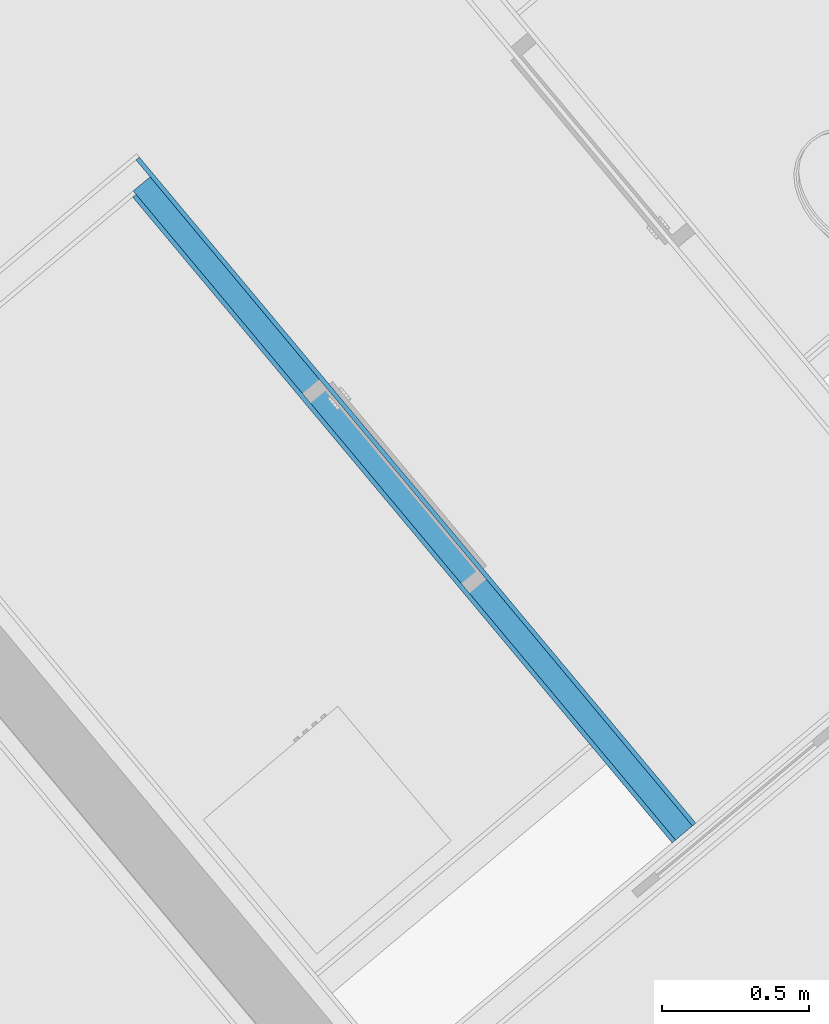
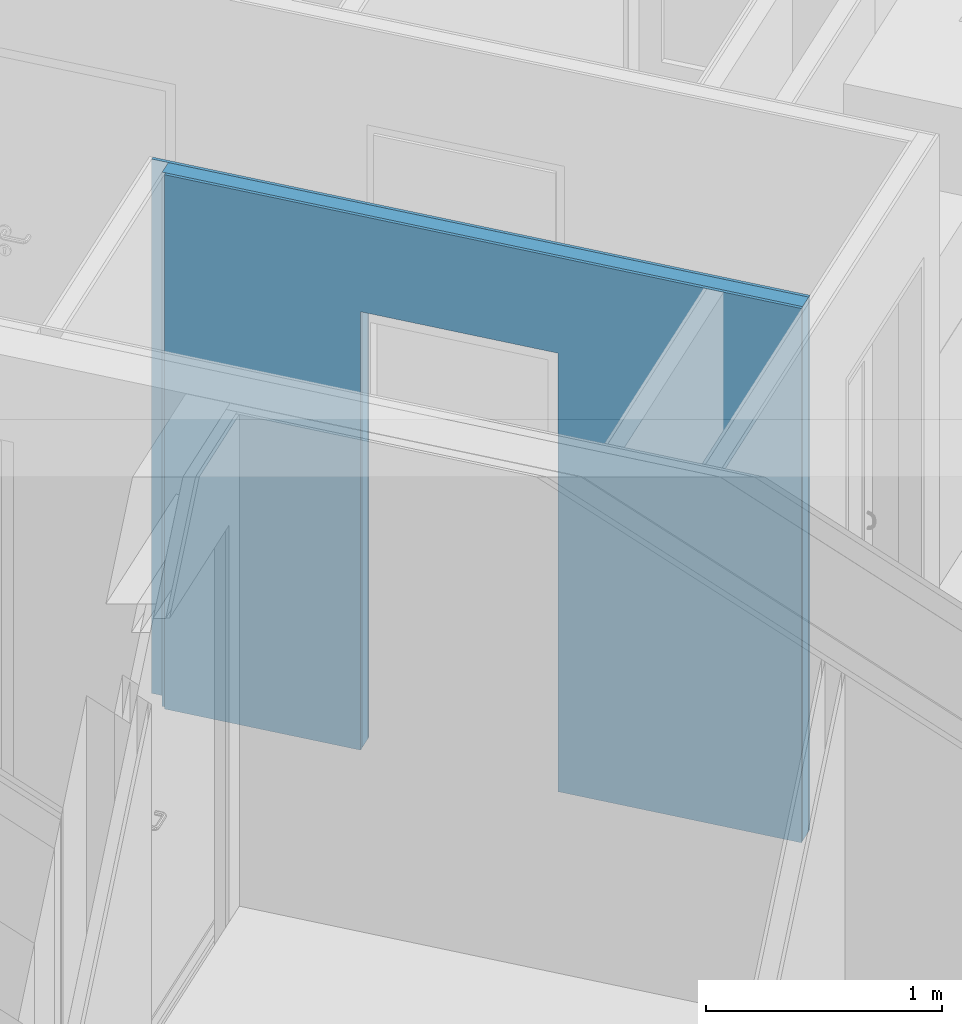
# One storey, part 6 of 61: 3 building element parts, 1 opening, 1 element without a shape of its own.
"""IFC4 building model written with IfcOpenShell, lengths in metres."""

from ifc_helpers import new_model, entity, si_unit, converted_unit, derived_unit, direction, frame, origin_with_axes, place, context, subcontext, project, spatial, polygons, material, type_object, element, aggregate, save


model = new_model("IFC4")

# Units and contexts
model_context = context("Model", 3, precision=1e-05, world=origin_with_axes(), true_north=direction((0.0, 1.0)))
body_context = subcontext(model_context, "Body", "Model", "MODEL_VIEW")
ifc_project = project(units=[si_unit("LENGTHUNIT", "METRE"), si_unit("AREAUNIT", "SQUARE_METRE"), si_unit("VOLUMEUNIT", "CUBIC_METRE"), converted_unit("PLANEANGLEUNIT", "DEGREE", entity("IfcPlaneAngleMeasure", 0.0174532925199), si_unit("PLANEANGLEUNIT", "RADIAN"), dimensions=[0, 0, 0, 0, 0, 0, 0]), converted_unit("TIMEUNIT", "Year", entity("IfcTimeMeasure", 31556926.0), si_unit("TIMEUNIT", "SECOND"), dimensions=[0, 0, 1, 0, 0, 0, 0]), si_unit("MASSUNIT", "GRAM", prefix="KILO"), si_unit("THERMODYNAMICTEMPERATUREUNIT", "DEGREE_CELSIUS"), si_unit("LUMINOUSINTENSITYUNIT", "LUMEN"), si_unit("ENERGYUNIT", "JOULE", prefix="MEGA"), derived_unit("THERMALCONDUCTANCEUNIT", [(si_unit("POWERUNIT", "WATT"), 1), (si_unit("LENGTHUNIT", "METRE"), -1), (si_unit("THERMODYNAMICTEMPERATUREUNIT", "KELVIN"), -1)]), derived_unit("SPECIFICHEATCAPACITYUNIT", [(si_unit("ENERGYUNIT", "JOULE"), 1), (si_unit("MASSUNIT", "GRAM", prefix="KILO"), -1), (si_unit("THERMODYNAMICTEMPERATUREUNIT", "KELVIN"), -1)]), derived_unit("MASSDENSITYUNIT", [(si_unit("MASSUNIT", "GRAM", prefix="KILO"), 1), (si_unit("VOLUMEUNIT", "CUBIC_METRE"), -1)])], contexts=[model_context])

# Site, building, storey
site_placement = place(None, frame((-0.00153261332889, -0.00661245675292, 0.0), z_axis=(0.0, 0.0, 1.0), x_axis=(1.0, 0.0, 0.0)))
site = spatial("IfcSite", under=ifc_project, at=site_placement, Name="Gelände", CompositionType="ELEMENT")
building_placement = place(site_placement, origin_with_axes())
building = spatial("IfcBuilding", under=site, at=building_placement, Name="Gebäude", CompositionType="ELEMENT")
storey_placement = place(building_placement, frame((0.0, 0.0, 5.7), z_axis=(0.0, 0.0, 1.0), x_axis=(1.0, 0.0, 0.0)))
storey = spatial("IfcBuildingStorey", under=building, at=storey_placement, Name="DG1", CompositionType="ELEMENT", Elevation=5.7)

# Wall, opening, building element parts
wall_type = type_object("IfcWallType", Name="IW LB 01 Leichtbautrennwand einfach 10,5 cm 105", PredefinedType="NOTDEFINED")
wall_placement = place(storey_placement, frame((3.83651471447, 23.8286993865, 0.0), z_axis=(0.0, 0.0, 1.0), x_axis=(0.641209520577, -0.767365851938, 0.0)))
wall = element("IfcWall", 1, at=wall_placement, inside=storey, type_object=wall_type, Name="Wand-012", PredefinedType="NOTDEFINED")
opening_placement = place(wall_placement, frame((1.32968654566, 0.0, 0.22), z_axis=(0.0, 0.0, 1.0), x_axis=(1.0, 0.0, 0.0)))
element("IfcOpeningElement", 2, at=opening_placement, cuts=wall, Name="Tür-015", context=body_context, identifier="Reference", shape_type="Tessellation", body=[
    polygons([(-0.445, -1.46532995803, 2.045), (-0.445, -1.46532995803, -0.22), (0.445, -1.46532995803, -0.22), (0.445, -1.46532995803, 2.045), (-0.445, 1.57032995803, 2.045), (-0.445, 1.57032995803, -0.22), (0.445, 1.57032995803, -0.22), (0.445, 1.57032995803, 2.045)], [[[1, 2, 3, 4]], [[5, 6, 2, 1]], [[6, 7, 3, 2]], [[7, 8, 4, 3]], [[8, 5, 1, 4]], [[7, 6, 5, 8]]], closed=True),
])
ifc_material_1 = material(Name="Gipskarton")
building_element_part_1_placement = place(wall_placement, origin_with_axes())
building_element_part_1 = element("IfcBuildingElementPart", 3, at=building_element_part_1_placement, material=ifc_material_1, Name="Gipskarton", PredefinedType="NOTDEFINED", context=body_context, shape_type="Tessellation", body=[
    polygons([(0.884686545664, 0.105, 2.265), (0.884686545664, 0.105, 0.22), (0.884686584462, 0.105, 0.0), (-0.0899999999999, 0.105, 0.0), (-0.0899999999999, 0.105, 2.76), (2.87109055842, 0.105, 2.76), (2.87109055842, 0.105, 0.0), (1.77468654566, 0.105, 0.0), (1.77468654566, 0.105, 0.22), (1.77468654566, 0.105, 2.265), (0.884686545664, 0.09, 2.265), (0.884686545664, 0.09, 0.22), (0.884686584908, 0.09, 0.0), (-0.0899999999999, 0.09, 0.0), (-0.0899999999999, 0.09, 2.76), (2.87108113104, 0.09, 2.76), (2.87108113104, 0.09, 0.0), (1.77468654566, 0.09, 0.0), (1.77468654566, 0.09, 0.22), (1.77468654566, 0.09, 2.265)], [[[1, 2, 3, 4, 5, 6, 7, 8, 9, 10]], [[2, 1, 11, 12]], [[2, 12, 13, 3]], [[13, 14, 4, 3]], [[4, 14, 15, 5]], [[6, 5, 15, 16]], [[7, 6, 16, 17]], [[8, 7, 17, 18]], [[19, 9, 8, 18]], [[10, 9, 19, 20]], [[1, 10, 20, 11]], [[20, 19, 18, 17, 16, 15, 14, 13, 12, 11]]], closed=True),
])
ifc_material_2 = material(Name="Mineralwolle weich")
building_element_part_2_placement = place(wall_placement, origin_with_axes())
building_element_part_2 = element("IfcBuildingElementPart", 4, at=building_element_part_2_placement, material=ifc_material_2, Name="Mineralwolle weich", PredefinedType="NOTDEFINED", context=body_context, shape_type="Tessellation", body=[
    polygons([(0.884686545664, 0.09, 2.265), (0.884686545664, 0.09, 0.22), (0.884686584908, 0.09, 0.0), (-0.0149999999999, 0.09, 0.0), (-0.0149999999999, 0.09, 2.76), (2.87108113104, 0.09, 2.76), (2.87108113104, 0.09, 0.0), (1.77468654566, 0.09, 0.0), (1.77468654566, 0.09, 0.22), (1.77468654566, 0.09, 2.265), (0.884686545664, 0.015, 2.265), (0.884686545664, 0.015, 0.22), (0.88468658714, 0.015, 0.0), (-0.015, 0.015, 0.0), (-0.015, 0.015, 2.76), (2.87103399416, 0.015, 2.76), (2.87103399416, 0.015, 0.0), (1.77468654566, 0.015, 0.0), (1.77468654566, 0.015, 0.22), (1.77468654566, 0.015, 2.265)], [[[1, 2, 3, 4, 5, 6, 7, 8, 9, 10]], [[2, 1, 11, 12]], [[2, 12, 13, 3]], [[13, 14, 4, 3]], [[4, 14, 15, 5]], [[6, 5, 15, 16]], [[7, 6, 16, 17]], [[8, 7, 17, 18]], [[19, 9, 8, 18]], [[10, 9, 19, 20]], [[1, 10, 20, 11]], [[20, 19, 18, 17, 16, 15, 14, 13, 12, 11]]], closed=True),
])
building_element_part_3_placement = place(wall_placement, origin_with_axes())
building_element_part_3 = element("IfcBuildingElementPart", 5, at=building_element_part_3_placement, material=ifc_material_1, Name="Gipskarton", PredefinedType="NOTDEFINED", context=body_context, shape_type="Tessellation", body=[
    polygons([(0.884686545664, 0.015, 2.265), (0.884686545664, 0.015, 0.22), (0.88468658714, 0.015, 0.0), (0.0, 0.015, 0.0), (0.0, 0.015, 2.76), (2.87103399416, 0.015, 2.76), (2.87103399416, 0.015, 0.0), (1.77468654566, 0.015, 0.0), (1.77468654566, 0.015, 0.22), (1.77468654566, 0.015, 2.265), (0.884686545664, -9.05944830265e-09, 2.265), (0.884686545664, -2.05159622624e-09, 0.22), (0.884686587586, -2.05159622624e-09, 0.0), (0.0, 0.0, 0.0), (0.0, 0.0, 2.76), (2.87102456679, 0.0, 2.76), (2.87102456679, 0.0, 0.0), (1.77468654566, -9.05944830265e-09, 0.0), (1.77468654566, -9.05944830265e-09, 0.22), (1.77468654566, -9.05944830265e-09, 2.265)], [[[1, 2, 3, 4, 5, 6, 7, 8, 9, 10]], [[2, 1, 11, 12]], [[2, 12, 13, 3]], [[13, 14, 4, 3]], [[4, 14, 15, 5]], [[6, 5, 15, 16]], [[7, 6, 16, 17]], [[8, 7, 17, 18]], [[19, 9, 8, 18]], [[10, 9, 19, 20]], [[1, 10, 20, 11]], [[20, 19, 18, 17, 16, 15, 14, 13, 12, 11]]], closed=True),
])
aggregate(wall, [building_element_part_1, building_element_part_2, building_element_part_3])

save(model, "model.ifc")
